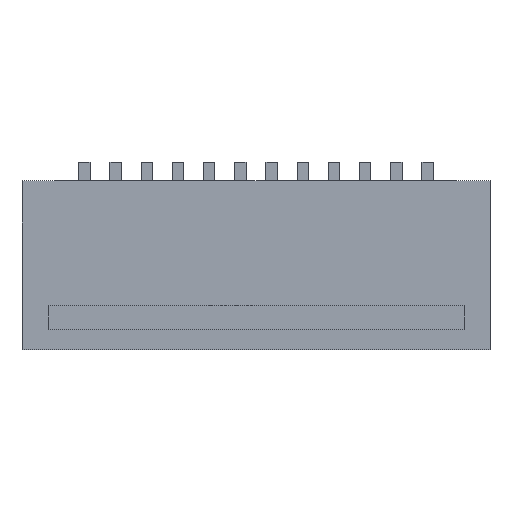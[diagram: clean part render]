
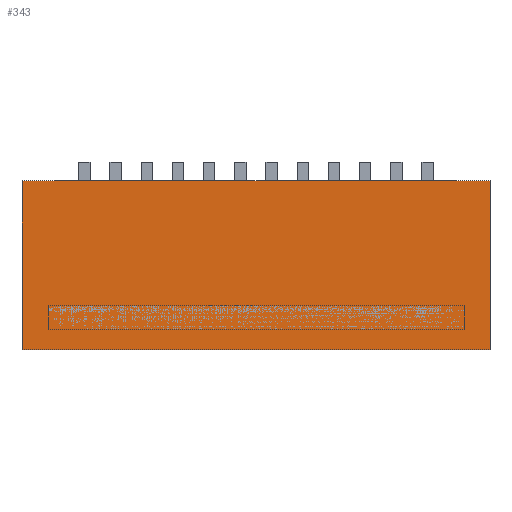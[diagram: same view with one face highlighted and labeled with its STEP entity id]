
A CAD part, top view. The second image highlights one B-rep face of the part: STEP entity #343.
In plain terms, the highlighted planar face has unit normal (0, 0, 1).
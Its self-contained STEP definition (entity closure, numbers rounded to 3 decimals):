
#154 = VERTEX_POINT('',#155);
#155 = CARTESIAN_POINT('',(-4.5,-1.9,1.));
#162 = PLANE('',#163);
#163 = AXIS2_PLACEMENT_3D('',#164,#165,#166);
#164 = CARTESIAN_POINT('',(-4.5,-1.9,0.1));
#165 = DIRECTION('',(1.,0.,0.));
#166 = DIRECTION('',(0.,0.,1.));
#174 = PLANE('',#175);
#175 = AXIS2_PLACEMENT_3D('',#176,#177,#178);
#176 = CARTESIAN_POINT('',(-4.5,-1.9,0.1));
#177 = DIRECTION('',(0.,1.,0.));
#178 = DIRECTION('',(0.,0.,1.));
#215 = VERTEX_POINT('',#216);
#216 = CARTESIAN_POINT('',(-4.5,1.35,1.));
#230 = PLANE('',#231);
#231 = AXIS2_PLACEMENT_3D('',#232,#233,#234);
#232 = CARTESIAN_POINT('',(-4.5,1.35,0.1));
#233 = DIRECTION('',(0.,1.,0.));
#234 = DIRECTION('',(0.,0.,1.));
#242 = EDGE_CURVE('',#154,#215,#243,.T.);
#243 = SURFACE_CURVE('',#244,(#248,#255),.PCURVE_S1.);
#244 = LINE('',#245,#246);
#245 = CARTESIAN_POINT('',(-4.5,-1.9,1.));
#246 = VECTOR('',#247,1.);
#247 = DIRECTION('',(0.,1.,0.));
#248 = PCURVE('',#162,#249);
#249 = DEFINITIONAL_REPRESENTATION('',(#250),#254);
#250 = LINE('',#251,#252);
#251 = CARTESIAN_POINT('',(0.9,0.));
#252 = VECTOR('',#253,1.);
#253 = DIRECTION('',(0.,-1.));
#254 = ( GEOMETRIC_REPRESENTATION_CONTEXT(2) 
PARAMETRIC_REPRESENTATION_CONTEXT() REPRESENTATION_CONTEXT('2D SPACE',''
  ) );
#255 = PCURVE('',#256,#261);
#256 = PLANE('',#257);
#257 = AXIS2_PLACEMENT_3D('',#258,#259,#260);
#258 = CARTESIAN_POINT('',(-4.5,-1.9,1.));
#259 = DIRECTION('',(0.,0.,1.));
#260 = DIRECTION('',(1.,0.,0.));
#261 = DEFINITIONAL_REPRESENTATION('',(#262),#266);
#262 = LINE('',#263,#264);
#263 = CARTESIAN_POINT('',(0.,0.));
#264 = VECTOR('',#265,1.);
#265 = DIRECTION('',(0.,1.));
#266 = ( GEOMETRIC_REPRESENTATION_CONTEXT(2) 
PARAMETRIC_REPRESENTATION_CONTEXT() REPRESENTATION_CONTEXT('2D SPACE',''
  ) );
#295 = EDGE_CURVE('',#154,#296,#298,.T.);
#296 = VERTEX_POINT('',#297);
#297 = CARTESIAN_POINT('',(4.5,-1.9,1.));
#298 = SURFACE_CURVE('',#299,(#303,#310),.PCURVE_S1.);
#299 = LINE('',#300,#301);
#300 = CARTESIAN_POINT('',(-4.5,-1.9,1.));
#301 = VECTOR('',#302,1.);
#302 = DIRECTION('',(1.,0.,0.));
#303 = PCURVE('',#174,#304);
#304 = DEFINITIONAL_REPRESENTATION('',(#305),#309);
#305 = LINE('',#306,#307);
#306 = CARTESIAN_POINT('',(0.9,0.));
#307 = VECTOR('',#308,1.);
#308 = DIRECTION('',(0.,1.));
#309 = ( GEOMETRIC_REPRESENTATION_CONTEXT(2) 
PARAMETRIC_REPRESENTATION_CONTEXT() REPRESENTATION_CONTEXT('2D SPACE',''
  ) );
#310 = PCURVE('',#256,#311);
#311 = DEFINITIONAL_REPRESENTATION('',(#312),#316);
#312 = LINE('',#313,#314);
#313 = CARTESIAN_POINT('',(0.,0.));
#314 = VECTOR('',#315,1.);
#315 = DIRECTION('',(1.,0.));
#316 = ( GEOMETRIC_REPRESENTATION_CONTEXT(2) 
PARAMETRIC_REPRESENTATION_CONTEXT() REPRESENTATION_CONTEXT('2D SPACE',''
  ) );
#332 = PLANE('',#333);
#333 = AXIS2_PLACEMENT_3D('',#334,#335,#336);
#334 = CARTESIAN_POINT('',(4.5,-1.9,0.1));
#335 = DIRECTION('',(1.,0.,0.));
#336 = DIRECTION('',(0.,0.,1.));
#343 = ADVANCED_FACE('',(#344),#256,.T.);
#344 = FACE_BOUND('',#345,.T.);
#345 = EDGE_LOOP('',(#346,#347,#348,#371));
#346 = ORIENTED_EDGE('',*,*,#242,.F.);
#347 = ORIENTED_EDGE('',*,*,#295,.T.);
#348 = ORIENTED_EDGE('',*,*,#349,.T.);
#349 = EDGE_CURVE('',#296,#350,#352,.T.);
#350 = VERTEX_POINT('',#351);
#351 = CARTESIAN_POINT('',(4.5,1.35,1.));
#352 = SURFACE_CURVE('',#353,(#357,#364),.PCURVE_S1.);
#353 = LINE('',#354,#355);
#354 = CARTESIAN_POINT('',(4.5,-1.9,1.));
#355 = VECTOR('',#356,1.);
#356 = DIRECTION('',(0.,1.,0.));
#357 = PCURVE('',#256,#358);
#358 = DEFINITIONAL_REPRESENTATION('',(#359),#363);
#359 = LINE('',#360,#361);
#360 = CARTESIAN_POINT('',(9.,0.));
#361 = VECTOR('',#362,1.);
#362 = DIRECTION('',(0.,1.));
#363 = ( GEOMETRIC_REPRESENTATION_CONTEXT(2) 
PARAMETRIC_REPRESENTATION_CONTEXT() REPRESENTATION_CONTEXT('2D SPACE',''
  ) );
#364 = PCURVE('',#332,#365);
#365 = DEFINITIONAL_REPRESENTATION('',(#366),#370);
#366 = LINE('',#367,#368);
#367 = CARTESIAN_POINT('',(0.9,0.));
#368 = VECTOR('',#369,1.);
#369 = DIRECTION('',(0.,-1.));
#370 = ( GEOMETRIC_REPRESENTATION_CONTEXT(2) 
PARAMETRIC_REPRESENTATION_CONTEXT() REPRESENTATION_CONTEXT('2D SPACE',''
  ) );
#371 = ORIENTED_EDGE('',*,*,#372,.F.);
#372 = EDGE_CURVE('',#215,#350,#373,.T.);
#373 = SURFACE_CURVE('',#374,(#378,#385),.PCURVE_S1.);
#374 = LINE('',#375,#376);
#375 = CARTESIAN_POINT('',(-4.5,1.35,1.));
#376 = VECTOR('',#377,1.);
#377 = DIRECTION('',(1.,0.,0.));
#378 = PCURVE('',#256,#379);
#379 = DEFINITIONAL_REPRESENTATION('',(#380),#384);
#380 = LINE('',#381,#382);
#381 = CARTESIAN_POINT('',(0.,3.25));
#382 = VECTOR('',#383,1.);
#383 = DIRECTION('',(1.,0.));
#384 = ( GEOMETRIC_REPRESENTATION_CONTEXT(2) 
PARAMETRIC_REPRESENTATION_CONTEXT() REPRESENTATION_CONTEXT('2D SPACE',''
  ) );
#385 = PCURVE('',#230,#386);
#386 = DEFINITIONAL_REPRESENTATION('',(#387),#391);
#387 = LINE('',#388,#389);
#388 = CARTESIAN_POINT('',(0.9,0.));
#389 = VECTOR('',#390,1.);
#390 = DIRECTION('',(0.,1.));
#391 = ( GEOMETRIC_REPRESENTATION_CONTEXT(2) 
PARAMETRIC_REPRESENTATION_CONTEXT() REPRESENTATION_CONTEXT('2D SPACE',''
  ) );
